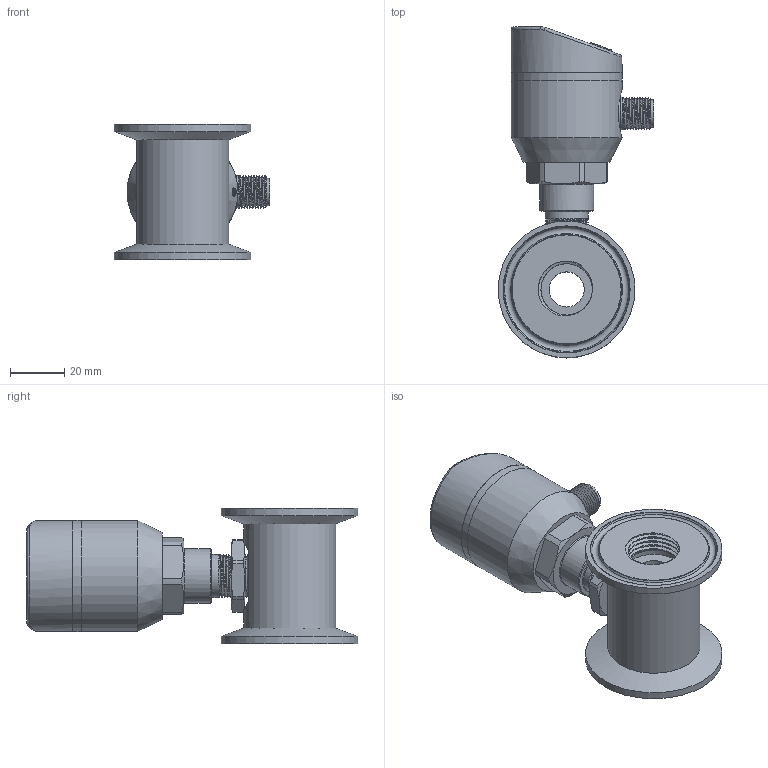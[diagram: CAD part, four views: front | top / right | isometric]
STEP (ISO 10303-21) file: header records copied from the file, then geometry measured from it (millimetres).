
FILE_DESCRIPTION( (''), '2;1');
FILE_NAME( 'QTKA_DN12_tri-clamp.step', '2024-01-11T14:15:55+08:00', (''), (''), '', '', '');
FILE_SCHEMA (('AUTOMOTIVE_DESIGN { 1 0 10303 214 3 1 1 1 }'));
Length unit declared in the file: millimetre
Products named in the file (1): QTKA DN12_tri-clamp
Bounding box: 57.43 x 122.55 x 50 mm (x, y, z)
Volume: 76731.9 mm3; surface area: 40193.9 mm2
Topology: 5 solids, 7 shells, 449 faces, 1078 edges, 682 vertices
Faces by surface type: plane 153, cylinder 144, cone 55, bspline 46, torus 45, sphere 6
Full cylindrical faces by diameter (mm): 1 x5, 2.7 x4, 8.4 x1, 9.7 x1, 9.8 x1, 10.1 x1, 11.6 x1, 12 x1, 13 x1, 15.9 x1, 17 x1, 20 x1, 21 x2, 23 x3, 26 x4, 26.1 x1, 34 x1, 37 x1, 41 x3, 50.5 x2
Entity records: 32417 total; most frequent: CARTESIAN_POINT 21202, DIRECTION 1968, ORIENTED_EDGE 1940, EDGE_CURVE 970, AXIS2_PLACEMENT_3D 796, VERTEX_POINT 642, EDGE_LOOP 562, ADVANCED_FACE 447
